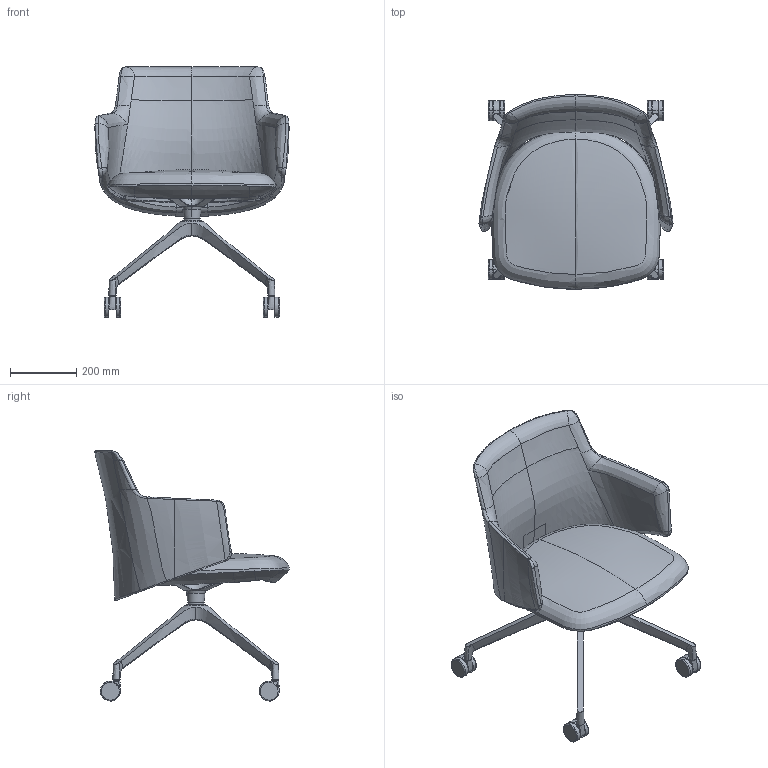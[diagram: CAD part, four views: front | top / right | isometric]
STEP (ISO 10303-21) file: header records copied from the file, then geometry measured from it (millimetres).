
FILE_DESCRIPTION(/* description */ (''),/* implementation_level */ '2;1');
FILE_NAME(/* name */ 'MELODY~1',/* time_stamp */ '2019-06-24T10:47:34+02:00',/* author */ (''),/* organization */ (''),/* preprocessor_version */ 'ST-DEVELOPER v15',/* originating_system */ '',/* authorisation */ '');
FILE_SCHEMA (('AUTOMOTIVE_DESIGN'));
Length unit declared in the file: millimetre
Products named in the file (1): Document
Bounding box: 583.87 x 585.29 x 752.69 mm (x, y, z)
Volume: 914885.8 mm3; surface area: 1620916 mm2
Topology: 1 solids, 17 shells, 313 faces, 848 edges, 494 vertices
Faces by surface type: bspline 258, plane 55
Entity records: 67097 total; most frequent: CARTESIAN_POINT 62283, ORIENTED_EDGE 1489, EDGE_CURVE 830, B_SPLINE_CURVE_WITH_KNOTS 552, VERTEX_POINT 494, ADVANCED_FACE 313, FACE_OUTER_BOUND 313, EDGE_LOOP 313
